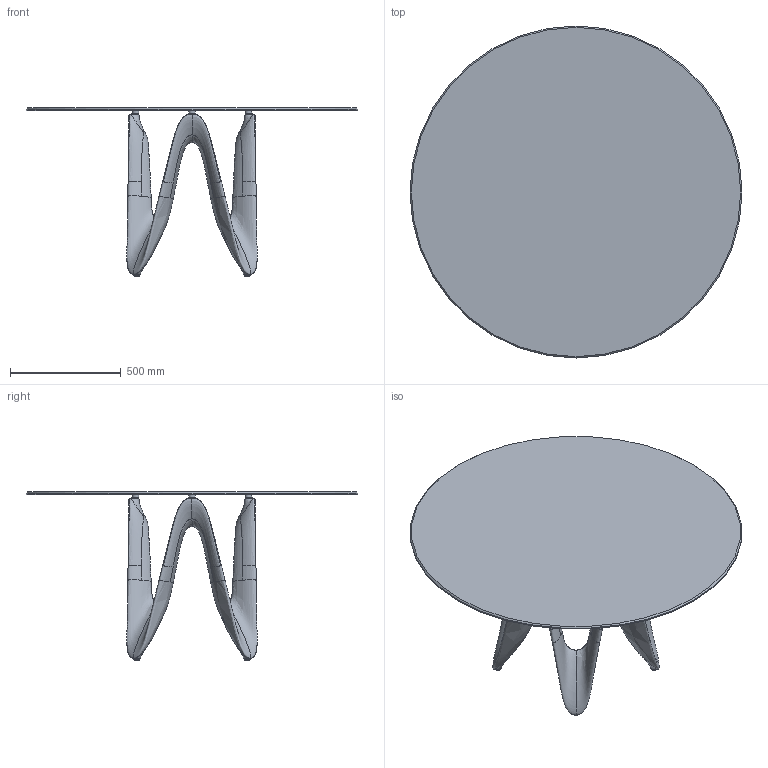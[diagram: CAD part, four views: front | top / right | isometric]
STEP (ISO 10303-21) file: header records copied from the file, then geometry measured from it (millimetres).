
FILE_DESCRIPTION((''),'2;1');
FILE_NAME('C:\AutodeskVault\AreaLavoro\Progetti\SoVeT Italia\1. Tavoli_Dining tables\Lambda\Lambda Round\Web file\P1042 TRCB Contorno semplificato.stp','2012-02-03T16:05:25',('Gianluca'),('So.Ve.T. s.r.l.'),'Autodesk Inventor 2011','Autodesk Inventor 2011','L PROGETTO E'' DI ESCLUSIVA PROPRIETA'' DELLA SO.VE.T srl. E'' VIETATA OGNI RIPRODUZIONE TOTALE O PARZIALE E QUALSIASI UTILIZZO NON AUTORIZZATO. ');
FILE_SCHEMA(('AUTOMOTIVE_DESIGN { 1 0 10303 214 1 1 1 1 }'));
Length unit declared in the file: millimetre
Products named in the file (1): P1042 TRCB Contorno semplificato
Bounding box: 1500 x 1500 x 760 mm (x, y, z)
Volume: 39700285.4 mm3; surface area: 4947727.6 mm2
Topology: 1 solids, 1 shells, 4014 faces, 9199 edges, 4763 vertices
Faces by surface type: cylinder 1461, plane 977, bspline 678, sphere 576, torus 300, cone 22
Full cylindrical faces by diameter (mm): 9 x4, 25 x4, 30 x4, 1500 x1
Entity records: 298356 total; most frequent: CARTESIAN_POINT 211550, DIRECTION 17135, ORIENTED_EDGE 17120, EDGE_CURVE 8560, AXIS2_PLACEMENT_3D 7001, VERTEX_POINT 4755, EDGE_LOOP 4229, FACE_OUTER_BOUND 4014
